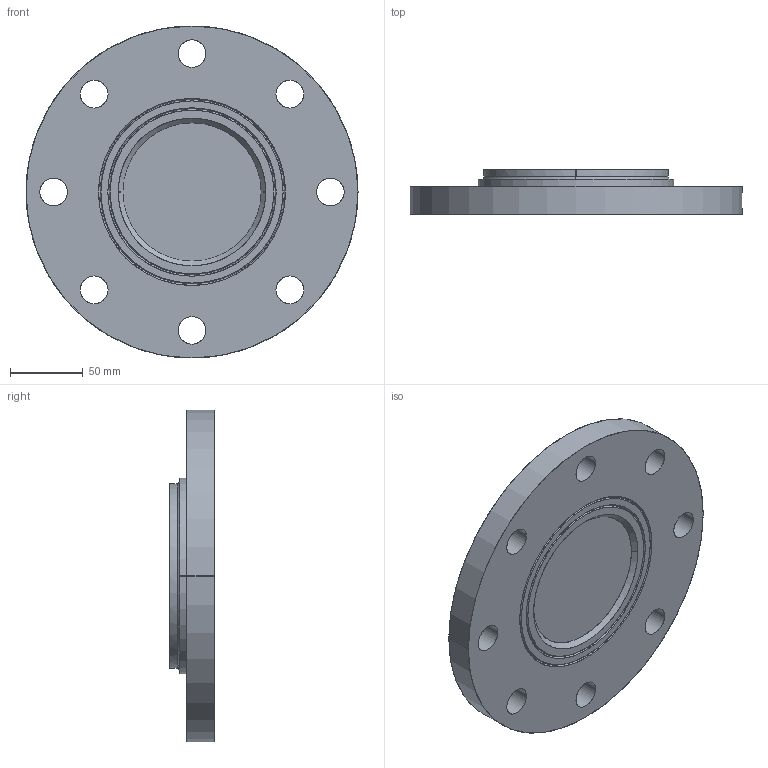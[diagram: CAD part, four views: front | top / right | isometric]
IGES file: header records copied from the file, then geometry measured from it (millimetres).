
Start section: SolidWorks IGES file using analytic representation for surfaces
Global section: file name: C:\Users\kprahl\Desktop\CobraMax Models for Website\CobraMax IGES Files\Base - 4 Inch Flange.IGS; native system: SolidWorks 2019; preprocessor: SolidWorks 2019; author: kprahl; date: 210412.165046; units: inch
Bounding box: 228.6 x 30.91 x 228.6 mm (x, y, z)
Surface area: 105764.3 mm2 (no closed solid volume)
Topology: 0 solids, 0 shells, 42 faces, 1304 edges, 1304 vertices
Faces by surface type: revolution 34, bspline 8
